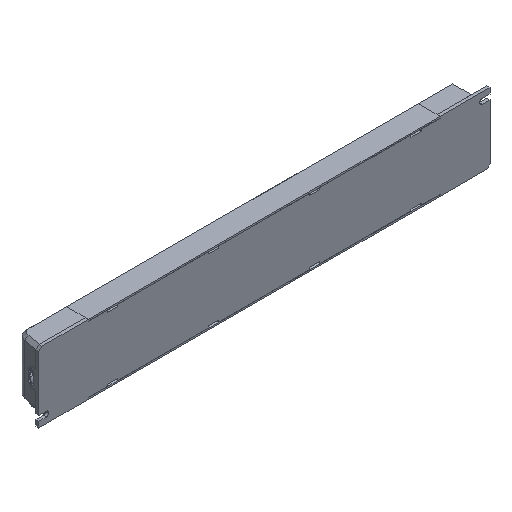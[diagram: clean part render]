
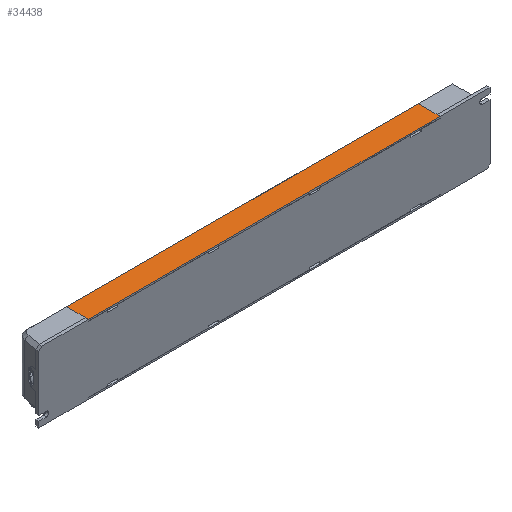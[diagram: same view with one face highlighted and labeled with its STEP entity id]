
A CAD part, isometric view. The second image highlights one B-rep face of the part: STEP entity #34438.
In plain terms, the highlighted planar face has unit normal (0, 0, 1).
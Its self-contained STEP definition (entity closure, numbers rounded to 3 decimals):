
#601 = EDGE_LOOP ( 'NONE', ( #3469, #17976, #10526, #36194 ) ) ;
#1517 = EDGE_CURVE ( 'NONE', #33076, #35507, #9815, .T. ) ;
#3469 = ORIENTED_EDGE ( 'NONE', *, *, #22242, .T. ) ;
#3834 = DIRECTION ( 'NONE',  ( 0., 0., 1. ) ) ;
#5253 = DIRECTION ( 'NONE',  ( 0., 1., 0. ) ) ;
#6755 = LINE ( 'NONE', #26483, #27911 ) ;
#6924 = PLANE ( 'NONE',  #26449 ) ;
#7133 = CARTESIAN_POINT ( 'NONE',  ( -113., 0., 22.25 ) ) ;
#8782 = CARTESIAN_POINT ( 'NONE',  ( -113., 14., 22.25 ) ) ;
#9815 = LINE ( 'NONE', #26099, #22849 ) ;
#9876 = DIRECTION ( 'NONE',  ( 1., 0., 0. ) ) ;
#10016 = CARTESIAN_POINT ( 'NONE',  ( -145., 0., 22.25 ) ) ;
#10226 = DIRECTION ( 'NONE',  ( 1., 0., 0. ) ) ;
#10526 = ORIENTED_EDGE ( 'NONE', *, *, #17839, .F. ) ;
#11034 = DIRECTION ( 'NONE',  ( 0., 1., 0. ) ) ;
#13660 = LINE ( 'NONE', #7133, #24244 ) ;
#15793 = EDGE_CURVE ( 'NONE', #32227, #22510, #13660, .T. ) ;
#15937 = VECTOR ( 'NONE', #5253, 1000. ) ;
#17839 = EDGE_CURVE ( 'NONE', #32227, #33076, #6755, .T. ) ;
#17976 = ORIENTED_EDGE ( 'NONE', *, *, #1517, .F. ) ;
#18918 = CARTESIAN_POINT ( 'NONE',  ( 113., 0., 22.25 ) ) ;
#19325 = LINE ( 'NONE', #23675, #15937 ) ;
#22242 = EDGE_CURVE ( 'NONE', #22510, #35507, #19325, .T. ) ;
#22510 = VERTEX_POINT ( 'NONE', #18918 ) ;
#22849 = VECTOR ( 'NONE', #10226, 1000. ) ;
#23266 = FACE_OUTER_BOUND ( 'NONE', #601, .T. ) ;
#23675 = CARTESIAN_POINT ( 'NONE',  ( 113., 0., 22.25 ) ) ;
#24244 = VECTOR ( 'NONE', #37521, 1000. ) ;
#26099 = CARTESIAN_POINT ( 'NONE',  ( -113., 14., 22.25 ) ) ;
#26449 = AXIS2_PLACEMENT_3D ( 'NONE', #10016, #3834, #9876 ) ;
#26483 = CARTESIAN_POINT ( 'NONE',  ( -113., 0., 22.25 ) ) ;
#27703 = CARTESIAN_POINT ( 'NONE',  ( -113., 0., 22.25 ) ) ;
#27911 = VECTOR ( 'NONE', #11034, 1000. ) ;
#32227 = VERTEX_POINT ( 'NONE', #27703 ) ;
#33076 = VERTEX_POINT ( 'NONE', #8782 ) ;
#34438 = ADVANCED_FACE ( 'NONE', ( #23266 ), #6924, .T. ) ;
#35507 = VERTEX_POINT ( 'NONE', #38868 ) ;
#36194 = ORIENTED_EDGE ( 'NONE', *, *, #15793, .T. ) ;
#37521 = DIRECTION ( 'NONE',  ( 1., 0., 0. ) ) ;
#38868 = CARTESIAN_POINT ( 'NONE',  ( 113., 14., 22.25 ) ) ;
